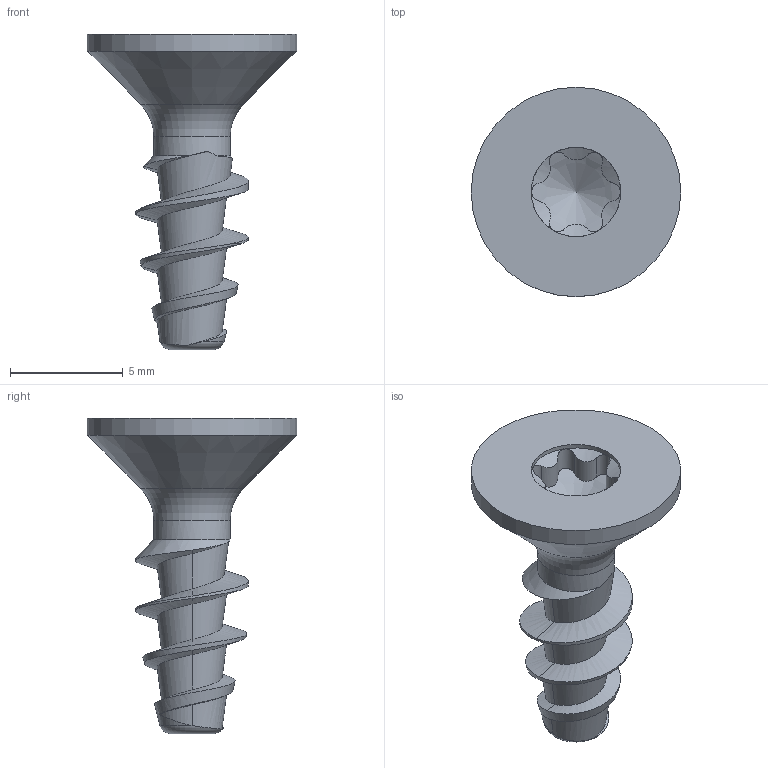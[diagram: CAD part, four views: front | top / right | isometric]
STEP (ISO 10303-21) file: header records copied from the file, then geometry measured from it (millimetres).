
FILE_DESCRIPTION(/* description */ (''),/* implementation_level */ '2;1');
FILE_NAME(/* name */ 'KN1041-STS-50x14-T20.step',/* time_stamp */ '2017-10-17T14:22:36+02:00',/* author */ (''),/* organization */ (''),/* preprocessor_version */ 'ST-DEVELOPER v16',/* originating_system */ 'SIEMENS PLM Software NX 10.0',/* authorisation */ '');
FILE_SCHEMA (('AUTOMOTIVE_DESIGN { 1 0 10303 214 3 1 1 1 }'));
Length unit declared in the file: millimetre
Products named in the file (1): KN1041-STS-50x14-T20
Bounding box: 9.3 x 9.3 x 14 mm (x, y, z)
Volume: 223.3 mm3; surface area: 349.7 mm2
Topology: 1 solids, 1 shells, 40 faces, 104 edges, 66 vertices
Faces by surface type: cylinder 16, bspline 14, cone 5, plane 3, torus 2
Full cylindrical faces by diameter (mm): 3.39 x1, 3.97 x1, 9.3 x1
Entity records: 2375 total; most frequent: CARTESIAN_POINT 1584, ORIENTED_EDGE 180, DIRECTION 101, EDGE_CURVE 90, VERTEX_POINT 61, B_SPLINE_CURVE_WITH_KNOTS 54, EDGE_LOOP 48, ADVANCED_FACE 40
